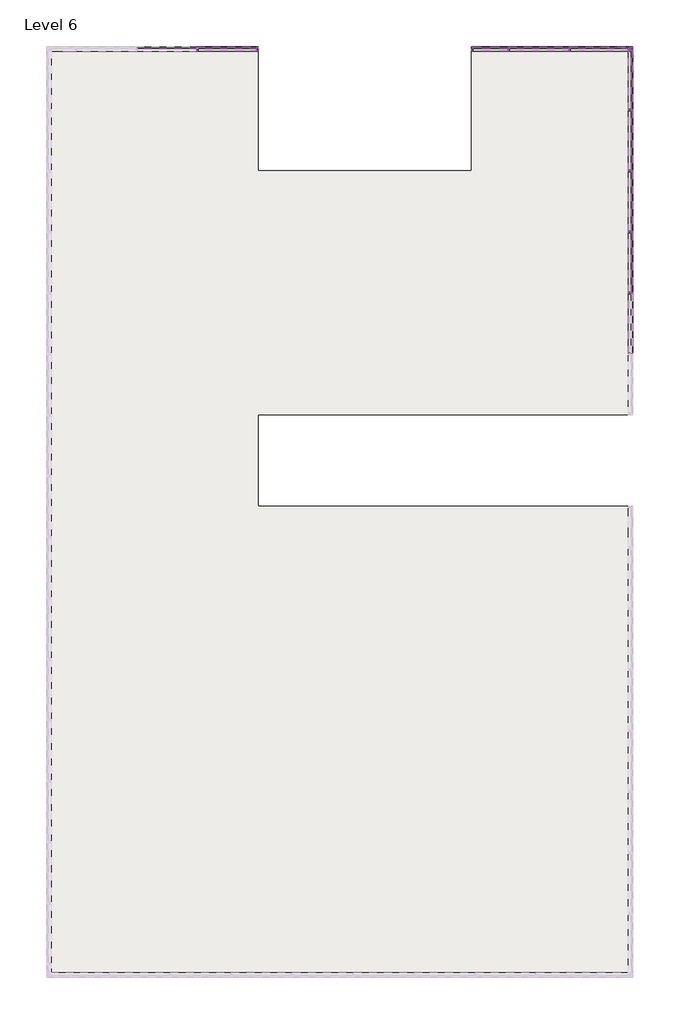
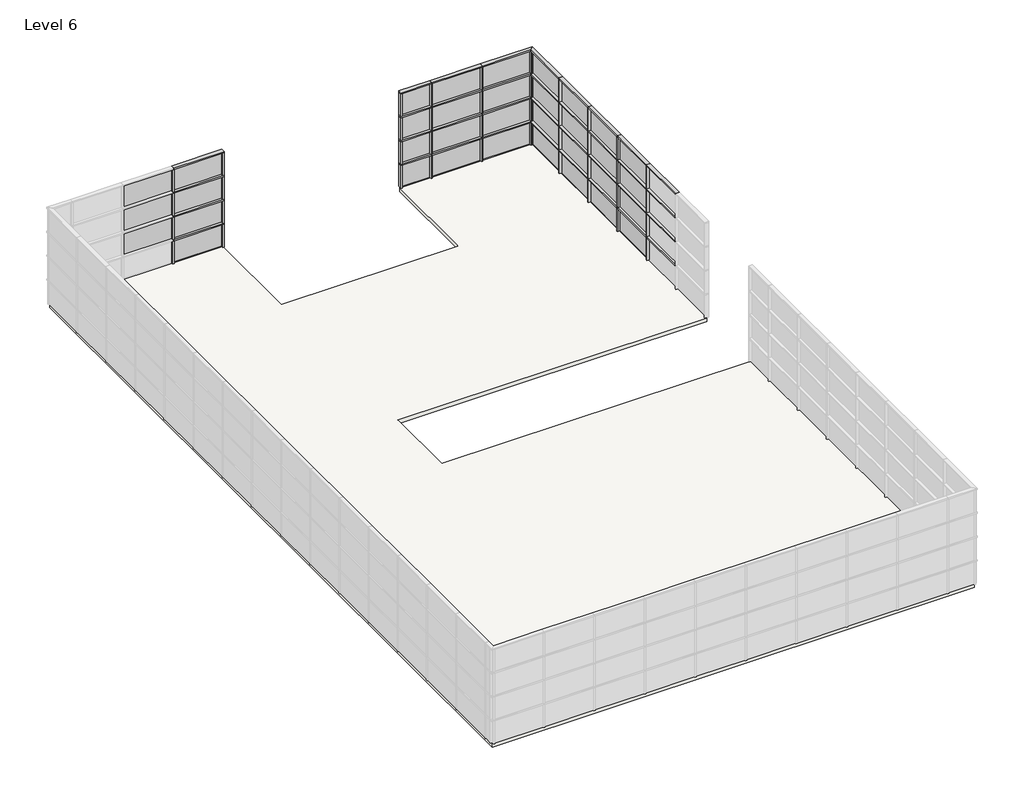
# One storey, part 5 of 5: 80 members, 35 plates, 1 slab.
"""IFC4 building model written with IfcOpenShell, lengths in millimetres."""

from ifc_helpers import new_model, si_unit, frame, origin, place, context, project, spatial, polyline, outline, extrude, transform, mapped, element, save
from components import rectangular_mullion_50_x_150mm_a053b0ca, rectangular_mullion_50_x_150mm_3a148f0f, rectangular_mullion_50_x_150mm_12a430f9, rectangular_mullion_50_x_150mm_11a594ce, rectangular_mullion_50_x_150mm_6b24f785, rectangular_mullion_50_x_150mm_947845bb, system_panel_glazed_751a585c, system_panel_glazed_08de6f5f, system_panel_glazed_892a108f

model = new_model("IFC4")

# Units and contexts
model_context = context("Model", 3, world=origin())
ifc_project = project(units=[si_unit("LENGTHUNIT", "METRE", prefix="MILLI")], contexts=[model_context])

# Site, building, storey
site = spatial("IfcSite", under=ifc_project)
building = spatial("IfcBuilding", under=site)
storey = spatial("IfcBuildingStorey", under=building, Name="Level 6", Elevation=20000.0)

# Members
placement = place(None, origin())
rectangular_mullion_50_x_150mm_shape = rectangular_mullion_50_x_150mm_a053b0ca(model_context)
element("IfcMember", 1, ObjectType="Rectangular Mullion : 50 x 150mm", at=placement, inside=storey, context=model_context, shape_type="MappedRepresentation", body=[
    mapped(rectangular_mullion_50_x_150mm_shape, transform((-721.580781, 8375.9839566, 20025.0), x_axis=(-1.0, 0.0, 0.0), y_axis=(0.0, 1.0, 0.0), z_axis=(0.0, 0.0, -0.9999999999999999))),
])
element("IfcMember", 2, ObjectType="Rectangular Mullion : 50 x 150mm", at=placement, inside=storey, context=model_context, shape_type="MappedRepresentation", body=[
    mapped(rectangular_mullion_50_x_150mm_shape, transform((-721.580781, 8375.9839566, 21025.0), x_axis=(-1.0, 0.0, 0.0), y_axis=(0.0, 1.0, 0.0), z_axis=(0.0, 0.0, -0.9999999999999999))),
])
element("IfcMember", 3, ObjectType="Rectangular Mullion : 50 x 150mm", at=placement, inside=storey, context=model_context, shape_type="MappedRepresentation", body=[
    mapped(rectangular_mullion_50_x_150mm_shape, transform((-721.580781, 8375.9839566, 22025.0), x_axis=(-1.0, 0.0, 0.0), y_axis=(0.0, 1.0, 0.0), z_axis=(0.0, 0.0, -0.9999999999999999))),
])
element("IfcMember", 4, ObjectType="Rectangular Mullion : 50 x 150mm", at=placement, inside=storey, context=model_context, shape_type="MappedRepresentation", body=[
    mapped(rectangular_mullion_50_x_150mm_shape, transform((-721.580781, 8375.9839566, 23025.0), x_axis=(-1.0, 0.0, 0.0), y_axis=(0.0, 1.0, 0.0), z_axis=(0.0, 0.0, -0.9999999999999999))),
])
element("IfcMember", 5, ObjectType="Rectangular Mullion : 50 x 150mm", at=placement, inside=storey, context=model_context, shape_type="MappedRepresentation", body=[
    mapped(rectangular_mullion_50_x_150mm_shape, transform((9503.2660975, 8375.9839566, 20025.0), x_axis=(-1.0, 0.0, 0.0), y_axis=(0.0, 1.0, 0.0), z_axis=(0.0, 0.0, -0.9999999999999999))),
])
element("IfcMember", 6, ObjectType="Rectangular Mullion : 50 x 150mm", at=placement, inside=storey, context=model_context, shape_type="MappedRepresentation", body=[
    mapped(rectangular_mullion_50_x_150mm_shape, transform((9503.2660975, 8375.9839566, 21025.0), x_axis=(-1.0, 0.0, 0.0), y_axis=(0.0, 1.0, 0.0), z_axis=(0.0, 0.0, -0.9999999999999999))),
])
element("IfcMember", 7, ObjectType="Rectangular Mullion : 50 x 150mm", at=placement, inside=storey, context=model_context, shape_type="MappedRepresentation", body=[
    mapped(rectangular_mullion_50_x_150mm_shape, transform((9503.2660975, 8375.9839566, 22025.0), x_axis=(-1.0, 0.0, 0.0), y_axis=(0.0, 1.0, 0.0), z_axis=(0.0, 0.0, -0.9999999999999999))),
])
element("IfcMember", 8, ObjectType="Rectangular Mullion : 50 x 150mm", at=placement, inside=storey, context=model_context, shape_type="MappedRepresentation", body=[
    mapped(rectangular_mullion_50_x_150mm_shape, transform((9503.2660975, 8375.9839566, 23025.0), x_axis=(-1.0, 0.0, 0.0), y_axis=(0.0, 1.0, 0.0), z_axis=(0.0, 0.0, -0.9999999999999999))),
])
element("IfcMember", 9, ObjectType="Rectangular Mullion : 50 x 150mm", at=placement, inside=storey, context=model_context, shape_type="MappedRepresentation", body=[
    mapped(rectangular_mullion_50_x_150mm_shape, transform((11503.2660975, 8375.9839566, 20025.0), x_axis=(-1.0, 0.0, 0.0), y_axis=(0.0, 1.0, 0.0), z_axis=(0.0, 0.0, -0.9999999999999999))),
])
element("IfcMember", 10, ObjectType="Rectangular Mullion : 50 x 150mm", at=placement, inside=storey, context=model_context, shape_type="MappedRepresentation", body=[
    mapped(rectangular_mullion_50_x_150mm_shape, transform((11503.2660975, 8375.9839566, 21025.0), x_axis=(-1.0, 0.0, 0.0), y_axis=(0.0, 1.0, 0.0), z_axis=(0.0, 0.0, -0.9999999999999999))),
])
element("IfcMember", 11, ObjectType="Rectangular Mullion : 50 x 150mm", at=placement, inside=storey, context=model_context, shape_type="MappedRepresentation", body=[
    mapped(rectangular_mullion_50_x_150mm_shape, transform((11503.2660975, 8375.9839566, 22025.0), x_axis=(-1.0, 0.0, 0.0), y_axis=(0.0, 1.0, 0.0), z_axis=(0.0, 0.0, -0.9999999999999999))),
])
element("IfcMember", 12, ObjectType="Rectangular Mullion : 50 x 150mm", at=placement, inside=storey, context=model_context, shape_type="MappedRepresentation", body=[
    mapped(rectangular_mullion_50_x_150mm_shape, transform((11503.2660975, 8375.9839566, 23025.0), x_axis=(-1.0, 0.0, 0.0), y_axis=(0.0, 1.0, 0.0), z_axis=(0.0, 0.0, -0.9999999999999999))),
])
element("IfcMember", 13, ObjectType="Rectangular Mullion : 50 x 150mm", at=placement, inside=storey, context=model_context, shape_type="MappedRepresentation", body=[
    mapped(rectangular_mullion_50_x_150mm_shape, transform((13503.2660975, 375.9839566, 20025.0), x_axis=(0.0, 1.0, 0.0), y_axis=(1.0, 0.0, 0.0), z_axis=(0.0, 0.0, -0.9999999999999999))),
])
element("IfcMember", 14, ObjectType="Rectangular Mullion : 50 x 150mm", at=placement, inside=storey, context=model_context, shape_type="MappedRepresentation", body=[
    mapped(rectangular_mullion_50_x_150mm_shape, transform((13503.2660975, 375.9839566, 21025.0), x_axis=(0.0, 1.0, 0.0), y_axis=(1.0, 0.0, 0.0), z_axis=(0.0, 0.0, -0.9999999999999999))),
])
element("IfcMember", 15, ObjectType="Rectangular Mullion : 50 x 150mm", at=placement, inside=storey, context=model_context, shape_type="MappedRepresentation", body=[
    mapped(rectangular_mullion_50_x_150mm_shape, transform((13503.2660975, 375.9839566, 22025.0), x_axis=(0.0, 1.0, 0.0), y_axis=(1.0, 0.0, 0.0), z_axis=(0.0, 0.0, -0.9999999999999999))),
])
element("IfcMember", 16, ObjectType="Rectangular Mullion : 50 x 150mm", at=placement, inside=storey, context=model_context, shape_type="MappedRepresentation", body=[
    mapped(rectangular_mullion_50_x_150mm_shape, transform((13503.2660975, 375.9839566, 23025.0), x_axis=(0.0, 1.0, 0.0), y_axis=(1.0, 0.0, 0.0), z_axis=(0.0, 0.0, -0.9999999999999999))),
])
element("IfcMember", 17, ObjectType="Rectangular Mullion : 50 x 150mm", at=placement, inside=storey, context=model_context, shape_type="MappedRepresentation", body=[
    mapped(rectangular_mullion_50_x_150mm_shape, transform((13503.2660975, 2375.9839566, 20025.0), x_axis=(0.0, 1.0, 0.0), y_axis=(1.0, 0.0, 0.0), z_axis=(0.0, 0.0, -0.9999999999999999))),
])
element("IfcMember", 18, ObjectType="Rectangular Mullion : 50 x 150mm", at=placement, inside=storey, context=model_context, shape_type="MappedRepresentation", body=[
    mapped(rectangular_mullion_50_x_150mm_shape, transform((13503.2660975, 2375.9839566, 21025.0), x_axis=(0.0, 1.0, 0.0), y_axis=(1.0, 0.0, 0.0), z_axis=(0.0, 0.0, -0.9999999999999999))),
])
element("IfcMember", 19, ObjectType="Rectangular Mullion : 50 x 150mm", at=placement, inside=storey, context=model_context, shape_type="MappedRepresentation", body=[
    mapped(rectangular_mullion_50_x_150mm_shape, transform((13503.2660975, 2375.9839566, 22025.0), x_axis=(0.0, 1.0, 0.0), y_axis=(1.0, 0.0, 0.0), z_axis=(0.0, 0.0, -0.9999999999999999))),
])
element("IfcMember", 20, ObjectType="Rectangular Mullion : 50 x 150mm", at=placement, inside=storey, context=model_context, shape_type="MappedRepresentation", body=[
    mapped(rectangular_mullion_50_x_150mm_shape, transform((13503.2660975, 2375.9839566, 23025.0), x_axis=(0.0, 1.0, 0.0), y_axis=(1.0, 0.0, 0.0), z_axis=(0.0, 0.0, -0.9999999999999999))),
])
element("IfcMember", 21, ObjectType="Rectangular Mullion : 50 x 150mm", at=placement, inside=storey, context=model_context, shape_type="MappedRepresentation", body=[
    mapped(rectangular_mullion_50_x_150mm_shape, transform((13503.2660975, 4375.9839566, 20025.0), x_axis=(0.0, 1.0, 0.0), y_axis=(1.0, 0.0, 0.0), z_axis=(0.0, 0.0, -0.9999999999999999))),
])
element("IfcMember", 22, ObjectType="Rectangular Mullion : 50 x 150mm", at=placement, inside=storey, context=model_context, shape_type="MappedRepresentation", body=[
    mapped(rectangular_mullion_50_x_150mm_shape, transform((13503.2660975, 4375.9839566, 21025.0), x_axis=(0.0, 1.0, 0.0), y_axis=(1.0, 0.0, 0.0), z_axis=(0.0, 0.0, -0.9999999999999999))),
])
element("IfcMember", 23, ObjectType="Rectangular Mullion : 50 x 150mm", at=placement, inside=storey, context=model_context, shape_type="MappedRepresentation", body=[
    mapped(rectangular_mullion_50_x_150mm_shape, transform((13503.2660975, 4375.9839566, 22025.0), x_axis=(0.0, 1.0, 0.0), y_axis=(1.0, 0.0, 0.0), z_axis=(0.0, 0.0, -0.9999999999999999))),
])
element("IfcMember", 24, ObjectType="Rectangular Mullion : 50 x 150mm", at=placement, inside=storey, context=model_context, shape_type="MappedRepresentation", body=[
    mapped(rectangular_mullion_50_x_150mm_shape, transform((13503.2660975, 4375.9839566, 23025.0), x_axis=(0.0, 1.0, 0.0), y_axis=(1.0, 0.0, 0.0), z_axis=(0.0, 0.0, -0.9999999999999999))),
])
element("IfcMember", 25, ObjectType="Rectangular Mullion : 50 x 150mm", at=placement, inside=storey, context=model_context, shape_type="MappedRepresentation", body=[
    mapped(rectangular_mullion_50_x_150mm_shape, transform((13503.2660975, 6375.9839566, 20025.0), x_axis=(0.0, 1.0, 0.0), y_axis=(1.0, 0.0, 0.0), z_axis=(0.0, 0.0, -0.9999999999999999))),
])
element("IfcMember", 26, ObjectType="Rectangular Mullion : 50 x 150mm", at=placement, inside=storey, context=model_context, shape_type="MappedRepresentation", body=[
    mapped(rectangular_mullion_50_x_150mm_shape, transform((13503.2660975, 6375.9839566, 21025.0), x_axis=(0.0, 1.0, 0.0), y_axis=(1.0, 0.0, 0.0), z_axis=(0.0, 0.0, -0.9999999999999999))),
])
element("IfcMember", 27, ObjectType="Rectangular Mullion : 50 x 150mm", at=placement, inside=storey, context=model_context, shape_type="MappedRepresentation", body=[
    mapped(rectangular_mullion_50_x_150mm_shape, transform((13503.2660975, 6375.9839566, 22025.0), x_axis=(0.0, 1.0, 0.0), y_axis=(1.0, 0.0, 0.0), z_axis=(0.0, 0.0, -0.9999999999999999))),
])
element("IfcMember", 28, ObjectType="Rectangular Mullion : 50 x 150mm", at=placement, inside=storey, context=model_context, shape_type="MappedRepresentation", body=[
    mapped(rectangular_mullion_50_x_150mm_shape, transform((13503.2660975, 6375.9839566, 23025.0), x_axis=(0.0, 1.0, 0.0), y_axis=(1.0, 0.0, 0.0), z_axis=(0.0, 0.0, -0.9999999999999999))),
])
rectangular_mullion_50_x_150mm_2_shape = rectangular_mullion_50_x_150mm_3a148f0f(model_context)
element("IfcMember", 29, ObjectType="Rectangular Mullion : 50 x 150mm", at=placement, inside=storey, context=model_context, shape_type="MappedRepresentation", body=[
    mapped(rectangular_mullion_50_x_150mm_2_shape, transform((-721.580781, 8375.9839566, 21000.0), x_axis=(0.0, 0.0, 1.0), y_axis=(0.0, 1.0, 0.0), z_axis=(-1.0, 0.0, 0.0))),
])
element("IfcMember", 30, ObjectType="Rectangular Mullion : 50 x 150mm", at=placement, inside=storey, context=model_context, shape_type="MappedRepresentation", body=[
    mapped(rectangular_mullion_50_x_150mm_2_shape, transform((-721.580781, 8375.9839566, 22000.0), x_axis=(0.0, 0.0, 1.0), y_axis=(0.0, 1.0, 0.0), z_axis=(-1.0, 0.0, 0.0))),
])
element("IfcMember", 31, ObjectType="Rectangular Mullion : 50 x 150mm", at=placement, inside=storey, context=model_context, shape_type="MappedRepresentation", body=[
    mapped(rectangular_mullion_50_x_150mm_2_shape, transform((-721.580781, 8375.9839566, 23000.0), x_axis=(0.0, 0.0, 1.0), y_axis=(0.0, 1.0, 0.0), z_axis=(-1.0, 0.0, 0.0))),
])
element("IfcMember", 32, ObjectType="Rectangular Mullion : 50 x 150mm", at=placement, inside=storey, context=model_context, shape_type="MappedRepresentation", body=[
    mapped(rectangular_mullion_50_x_150mm_2_shape, transform((-721.580781, 8375.9839566, 24000.0), x_axis=(0.0, 0.0, 1.0), y_axis=(0.0, 1.0, 0.0), z_axis=(-1.0, 0.0, 0.0))),
])
element("IfcMember", 33, ObjectType="Rectangular Mullion : 50 x 150mm", at=placement, inside=storey, context=model_context, shape_type="MappedRepresentation", body=[
    mapped(rectangular_mullion_50_x_150mm_2_shape, transform((9503.2660975, 8375.9839566, 21000.0), x_axis=(0.0, 0.0, 1.0), y_axis=(0.0, 1.0, 0.0), z_axis=(-1.0, 0.0, 0.0))),
])
element("IfcMember", 34, ObjectType="Rectangular Mullion : 50 x 150mm", at=placement, inside=storey, context=model_context, shape_type="MappedRepresentation", body=[
    mapped(rectangular_mullion_50_x_150mm_2_shape, transform((9503.2660975, 8375.9839566, 22000.0), x_axis=(0.0, 0.0, 1.0), y_axis=(0.0, 1.0, 0.0), z_axis=(-1.0, 0.0, 0.0))),
])
element("IfcMember", 35, ObjectType="Rectangular Mullion : 50 x 150mm", at=placement, inside=storey, context=model_context, shape_type="MappedRepresentation", body=[
    mapped(rectangular_mullion_50_x_150mm_2_shape, transform((9503.2660975, 8375.9839566, 23000.0), x_axis=(0.0, 0.0, 1.0), y_axis=(0.0, 1.0, 0.0), z_axis=(-1.0, 0.0, 0.0))),
])
element("IfcMember", 36, ObjectType="Rectangular Mullion : 50 x 150mm", at=placement, inside=storey, context=model_context, shape_type="MappedRepresentation", body=[
    mapped(rectangular_mullion_50_x_150mm_2_shape, transform((9503.2660975, 8375.9839566, 24000.0), x_axis=(0.0, 0.0, 1.0), y_axis=(0.0, 1.0, 0.0), z_axis=(-1.0, 0.0, 0.0))),
])
element("IfcMember", 37, ObjectType="Rectangular Mullion : 50 x 150mm", at=placement, inside=storey, context=model_context, shape_type="MappedRepresentation", body=[
    mapped(rectangular_mullion_50_x_150mm_2_shape, transform((13503.2660975, 375.9839566, 21000.0), x_axis=(0.0, 0.0, 1.0), y_axis=(1.0, 0.0, 0.0), z_axis=(0.0, 1.0, 0.0))),
])
element("IfcMember", 38, ObjectType="Rectangular Mullion : 50 x 150mm", at=placement, inside=storey, context=model_context, shape_type="MappedRepresentation", body=[
    mapped(rectangular_mullion_50_x_150mm_2_shape, transform((13503.2660975, 2375.9839566, 21000.0), x_axis=(0.0, 0.0, 1.0), y_axis=(1.0, 0.0, 0.0), z_axis=(0.0, 1.0, 0.0))),
])
element("IfcMember", 39, ObjectType="Rectangular Mullion : 50 x 150mm", at=placement, inside=storey, context=model_context, shape_type="MappedRepresentation", body=[
    mapped(rectangular_mullion_50_x_150mm_2_shape, transform((13503.2660975, 4375.9839566, 21000.0), x_axis=(0.0, 0.0, 1.0), y_axis=(1.0, 0.0, 0.0), z_axis=(0.0, 1.0, 0.0))),
])
element("IfcMember", 40, ObjectType="Rectangular Mullion : 50 x 150mm", at=placement, inside=storey, context=model_context, shape_type="MappedRepresentation", body=[
    mapped(rectangular_mullion_50_x_150mm_2_shape, transform((13503.2660975, 6375.9839566, 21000.0), x_axis=(0.0, 0.0, 1.0), y_axis=(1.0, 0.0, 0.0), z_axis=(0.0, 1.0, 0.0))),
])
element("IfcMember", 41, ObjectType="Rectangular Mullion : 50 x 150mm", at=placement, inside=storey, context=model_context, shape_type="MappedRepresentation", body=[
    mapped(rectangular_mullion_50_x_150mm_2_shape, transform((13503.2660975, 375.9839566, 22000.0), x_axis=(0.0, 0.0, 1.0), y_axis=(1.0, 0.0, 0.0), z_axis=(0.0, 1.0, 0.0))),
])
element("IfcMember", 42, ObjectType="Rectangular Mullion : 50 x 150mm", at=placement, inside=storey, context=model_context, shape_type="MappedRepresentation", body=[
    mapped(rectangular_mullion_50_x_150mm_2_shape, transform((13503.2660975, 2375.9839566, 22000.0), x_axis=(0.0, 0.0, 1.0), y_axis=(1.0, 0.0, 0.0), z_axis=(0.0, 1.0, 0.0))),
])
element("IfcMember", 43, ObjectType="Rectangular Mullion : 50 x 150mm", at=placement, inside=storey, context=model_context, shape_type="MappedRepresentation", body=[
    mapped(rectangular_mullion_50_x_150mm_2_shape, transform((13503.2660975, 4375.9839566, 22000.0), x_axis=(0.0, 0.0, 1.0), y_axis=(1.0, 0.0, 0.0), z_axis=(0.0, 1.0, 0.0))),
])
element("IfcMember", 44, ObjectType="Rectangular Mullion : 50 x 150mm", at=placement, inside=storey, context=model_context, shape_type="MappedRepresentation", body=[
    mapped(rectangular_mullion_50_x_150mm_2_shape, transform((13503.2660975, 6375.9839566, 22000.0), x_axis=(0.0, 0.0, 1.0), y_axis=(1.0, 0.0, 0.0), z_axis=(0.0, 1.0, 0.0))),
])
element("IfcMember", 45, ObjectType="Rectangular Mullion : 50 x 150mm", at=placement, inside=storey, context=model_context, shape_type="MappedRepresentation", body=[
    mapped(rectangular_mullion_50_x_150mm_2_shape, transform((13503.2660975, 375.9839566, 23000.0), x_axis=(0.0, 0.0, 1.0), y_axis=(1.0, 0.0, 0.0), z_axis=(0.0, 0.9999999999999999, 0.0))),
])
element("IfcMember", 46, ObjectType="Rectangular Mullion : 50 x 150mm", at=placement, inside=storey, context=model_context, shape_type="MappedRepresentation", body=[
    mapped(rectangular_mullion_50_x_150mm_2_shape, transform((13503.2660975, 2375.9839566, 23000.0), x_axis=(0.0, 0.0, 1.0), y_axis=(1.0, 0.0, 0.0), z_axis=(0.0, 1.0, 0.0))),
])
element("IfcMember", 47, ObjectType="Rectangular Mullion : 50 x 150mm", at=placement, inside=storey, context=model_context, shape_type="MappedRepresentation", body=[
    mapped(rectangular_mullion_50_x_150mm_2_shape, transform((13503.2660975, 4375.9839566, 23000.0), x_axis=(0.0, 0.0, 1.0), y_axis=(1.0, 0.0, 0.0), z_axis=(0.0, 1.0, 0.0))),
])
element("IfcMember", 48, ObjectType="Rectangular Mullion : 50 x 150mm", at=placement, inside=storey, context=model_context, shape_type="MappedRepresentation", body=[
    mapped(rectangular_mullion_50_x_150mm_2_shape, transform((13503.2660975, 6375.9839566, 23000.0), x_axis=(0.0, 0.0, 1.0), y_axis=(1.0, 0.0, 0.0), z_axis=(0.0, 1.0, 0.0))),
])
element("IfcMember", 49, ObjectType="Rectangular Mullion : 50 x 150mm", at=placement, inside=storey, context=model_context, shape_type="MappedRepresentation", body=[
    mapped(rectangular_mullion_50_x_150mm_2_shape, transform((13503.2660975, 375.9839566, 24000.0), x_axis=(0.0, 0.0, 1.0), y_axis=(1.0, 0.0, 0.0), z_axis=(0.0, 0.9999999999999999, 0.0))),
])
element("IfcMember", 50, ObjectType="Rectangular Mullion : 50 x 150mm", at=placement, inside=storey, context=model_context, shape_type="MappedRepresentation", body=[
    mapped(rectangular_mullion_50_x_150mm_2_shape, transform((13503.2660975, 2375.9839566, 24000.0), x_axis=(0.0, 0.0, 1.0), y_axis=(1.0, 0.0, 0.0), z_axis=(0.0, 1.0, 0.0))),
])
element("IfcMember", 51, ObjectType="Rectangular Mullion : 50 x 150mm", at=placement, inside=storey, context=model_context, shape_type="MappedRepresentation", body=[
    mapped(rectangular_mullion_50_x_150mm_2_shape, transform((13503.2660975, 4375.9839566, 24000.0), x_axis=(0.0, 0.0, 1.0), y_axis=(1.0, 0.0, 0.0), z_axis=(0.0, 1.0, 0.0))),
])
element("IfcMember", 52, ObjectType="Rectangular Mullion : 50 x 150mm", at=placement, inside=storey, context=model_context, shape_type="MappedRepresentation", body=[
    mapped(rectangular_mullion_50_x_150mm_2_shape, transform((13503.2660975, 6375.9839566, 24000.0), x_axis=(0.0, 0.0, 1.0), y_axis=(1.0, 0.0, 0.0), z_axis=(0.0, 1.0, 0.0))),
])
rectangular_mullion_50_x_150mm_3_shape = rectangular_mullion_50_x_150mm_12a430f9(model_context)
element("IfcMember", 53, ObjectType="Rectangular Mullion : 50 x 150mm", at=placement, inside=storey, context=model_context, shape_type="MappedRepresentation", body=[
    mapped(rectangular_mullion_50_x_150mm_3_shape, transform((1278.419219, 8375.9839566, 20975.0), x_axis=(1.0, 0.0, 0.0), y_axis=(0.0, 1.0, 0.0), z_axis=(0.0, 0.0, 0.9999999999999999))),
])
element("IfcMember", 54, ObjectType="Rectangular Mullion : 50 x 150mm", at=placement, inside=storey, context=model_context, shape_type="MappedRepresentation", body=[
    mapped(rectangular_mullion_50_x_150mm_3_shape, transform((1278.419219, 8375.9839566, 21975.0), x_axis=(1.0, 0.0, 0.0), y_axis=(0.0, 1.0, 0.0), z_axis=(0.0, 0.0, 0.9999999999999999))),
])
element("IfcMember", 55, ObjectType="Rectangular Mullion : 50 x 150mm", at=placement, inside=storey, context=model_context, shape_type="MappedRepresentation", body=[
    mapped(rectangular_mullion_50_x_150mm_3_shape, transform((1278.419219, 8375.9839566, 22975.0), x_axis=(1.0, 0.0, 0.0), y_axis=(0.0, 1.0, 0.0), z_axis=(0.0, 0.0, 0.9999999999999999))),
])
element("IfcMember", 56, ObjectType="Rectangular Mullion : 50 x 150mm", at=placement, inside=storey, context=model_context, shape_type="MappedRepresentation", body=[
    mapped(rectangular_mullion_50_x_150mm_3_shape, transform((1278.419219, 8375.9839566, 23975.0), x_axis=(1.0, 0.0, 0.0), y_axis=(0.0, 1.0, 0.0), z_axis=(0.0, 0.0, 0.9999999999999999))),
])
element("IfcMember", 57, ObjectType="Rectangular Mullion : 50 x 150mm", at=placement, inside=storey, context=model_context, shape_type="MappedRepresentation", body=[
    mapped(rectangular_mullion_50_x_150mm_3_shape, transform((13503.2660975, 8375.9839566, 20975.0), x_axis=(1.0, 0.0, 0.0), y_axis=(0.0, 1.0, 0.0), z_axis=(0.0, 0.0, 0.9999999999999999))),
])
element("IfcMember", 58, ObjectType="Rectangular Mullion : 50 x 150mm", at=placement, inside=storey, context=model_context, shape_type="MappedRepresentation", body=[
    mapped(rectangular_mullion_50_x_150mm_3_shape, transform((13503.2660975, 8375.9839566, 21975.0), x_axis=(1.0, 0.0, 0.0), y_axis=(0.0, 1.0, 0.0), z_axis=(0.0, 0.0, 0.9999999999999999))),
])
element("IfcMember", 59, ObjectType="Rectangular Mullion : 50 x 150mm", at=placement, inside=storey, context=model_context, shape_type="MappedRepresentation", body=[
    mapped(rectangular_mullion_50_x_150mm_3_shape, transform((13503.2660975, 8375.9839566, 22975.0), x_axis=(1.0, 0.0, 0.0), y_axis=(0.0, 1.0, 0.0), z_axis=(0.0, 0.0, 0.9999999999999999))),
])
element("IfcMember", 60, ObjectType="Rectangular Mullion : 50 x 150mm", at=placement, inside=storey, context=model_context, shape_type="MappedRepresentation", body=[
    mapped(rectangular_mullion_50_x_150mm_3_shape, transform((13503.2660975, 8375.9839566, 23975.0), x_axis=(1.0, 0.0, 0.0), y_axis=(0.0, 1.0, 0.0), z_axis=(0.0, 0.0, 0.9999999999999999))),
])
element("IfcMember", 61, ObjectType="Rectangular Mullion : 50 x 150mm", at=placement, inside=storey, context=model_context, shape_type="MappedRepresentation", body=[
    mapped(rectangular_mullion_50_x_150mm_3_shape, transform((8278.419219, 8375.9839566, 20025.0), x_axis=(-1.0, 0.0, 0.0), y_axis=(0.0, 1.0, 0.0), z_axis=(0.0, 0.0, -0.9999999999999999))),
])
element("IfcMember", 62, ObjectType="Rectangular Mullion : 50 x 150mm", at=placement, inside=storey, context=model_context, shape_type="MappedRepresentation", body=[
    mapped(rectangular_mullion_50_x_150mm_3_shape, transform((8278.419219, 8375.9839566, 21025.0), x_axis=(-1.0, 0.0, 0.0), y_axis=(0.0, 1.0, 0.0), z_axis=(0.0, 0.0, -0.9999999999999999))),
])
element("IfcMember", 63, ObjectType="Rectangular Mullion : 50 x 150mm", at=placement, inside=storey, context=model_context, shape_type="MappedRepresentation", body=[
    mapped(rectangular_mullion_50_x_150mm_3_shape, transform((8278.419219, 8375.9839566, 22025.0), x_axis=(-1.0, 0.0, 0.0), y_axis=(0.0, 1.0, 0.0), z_axis=(0.0, 0.0, -0.9999999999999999))),
])
element("IfcMember", 64, ObjectType="Rectangular Mullion : 50 x 150mm", at=placement, inside=storey, context=model_context, shape_type="MappedRepresentation", body=[
    mapped(rectangular_mullion_50_x_150mm_3_shape, transform((8278.419219, 8375.9839566, 23025.0), x_axis=(-1.0, 0.0, 0.0), y_axis=(0.0, 1.0, 0.0), z_axis=(0.0, 0.0, -0.9999999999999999))),
])
element("IfcMember", 65, ObjectType="Rectangular Mullion : 50 x 150mm", at=placement, inside=storey, context=model_context, shape_type="MappedRepresentation", body=[
    mapped(rectangular_mullion_50_x_150mm_3_shape, transform((13503.2660975, 8375.9839566, 20025.0), x_axis=(0.0, 1.0, 0.0), y_axis=(1.0, 0.0, 0.0), z_axis=(0.0, 0.0, -0.9999999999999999))),
])
element("IfcMember", 66, ObjectType="Rectangular Mullion : 50 x 150mm", at=placement, inside=storey, context=model_context, shape_type="MappedRepresentation", body=[
    mapped(rectangular_mullion_50_x_150mm_3_shape, transform((13503.2660975, 8375.9839566, 21025.0), x_axis=(0.0, 1.0, 0.0), y_axis=(1.0, 0.0, 0.0), z_axis=(0.0, 0.0, -0.9999999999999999))),
])
element("IfcMember", 67, ObjectType="Rectangular Mullion : 50 x 150mm", at=placement, inside=storey, context=model_context, shape_type="MappedRepresentation", body=[
    mapped(rectangular_mullion_50_x_150mm_3_shape, transform((13503.2660975, 8375.9839566, 22025.0), x_axis=(0.0, 1.0, 0.0), y_axis=(1.0, 0.0, 0.0), z_axis=(0.0, 0.0, -0.9999999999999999))),
])
element("IfcMember", 68, ObjectType="Rectangular Mullion : 50 x 150mm", at=placement, inside=storey, context=model_context, shape_type="MappedRepresentation", body=[
    mapped(rectangular_mullion_50_x_150mm_3_shape, transform((13503.2660975, 8375.9839566, 23025.0), x_axis=(0.0, 1.0, 0.0), y_axis=(1.0, 0.0, 0.0), z_axis=(0.0, 0.0, -0.9999999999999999))),
])
rectangular_mullion_50_x_150mm_4_shape = rectangular_mullion_50_x_150mm_11a594ce(model_context)
element("IfcMember", 69, ObjectType="Rectangular Mullion : 50 x 150mm", at=placement, inside=storey, context=model_context, shape_type="MappedRepresentation", body=[
    mapped(rectangular_mullion_50_x_150mm_4_shape, transform((8278.419219, 8375.9839566, 21000.0), x_axis=(0.0, 0.0, 1.0), y_axis=(0.0, 1.0, 0.0), z_axis=(-1.0, 0.0, 0.0))),
])
element("IfcMember", 70, ObjectType="Rectangular Mullion : 50 x 150mm", at=placement, inside=storey, context=model_context, shape_type="MappedRepresentation", body=[
    mapped(rectangular_mullion_50_x_150mm_4_shape, transform((8278.419219, 8375.9839566, 22000.0), x_axis=(0.0, 0.0, 1.0), y_axis=(0.0, 1.0, 0.0), z_axis=(-1.0, 0.0, 0.0))),
])
element("IfcMember", 71, ObjectType="Rectangular Mullion : 50 x 150mm", at=placement, inside=storey, context=model_context, shape_type="MappedRepresentation", body=[
    mapped(rectangular_mullion_50_x_150mm_4_shape, transform((8278.419219, 8375.9839566, 23000.0), x_axis=(0.0, 0.0, 1.0), y_axis=(0.0, 1.0, 0.0), z_axis=(-1.0, 0.0, 0.0))),
])
element("IfcMember", 72, ObjectType="Rectangular Mullion : 50 x 150mm", at=placement, inside=storey, context=model_context, shape_type="MappedRepresentation", body=[
    mapped(rectangular_mullion_50_x_150mm_4_shape, transform((8278.419219, 8375.9839566, 24000.0), x_axis=(0.0, 0.0, 1.0), y_axis=(0.0, 1.0, 0.0), z_axis=(-1.0, 0.0, 0.0))),
])
rectangular_mullion_50_x_150mm_5_shape = rectangular_mullion_50_x_150mm_6b24f785(model_context)
element("IfcMember", 73, ObjectType="Rectangular Mullion : 50 x 150mm", at=placement, inside=storey, context=model_context, shape_type="MappedRepresentation", body=[
    mapped(rectangular_mullion_50_x_150mm_5_shape, transform((13503.2660975, 8375.9839566, 21000.0), x_axis=(0.0, 0.0, 1.0), y_axis=(1.0, 0.0, 0.0), z_axis=(0.0, 0.9999999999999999, 0.0))),
])
element("IfcMember", 74, ObjectType="Rectangular Mullion : 50 x 150mm", at=placement, inside=storey, context=model_context, shape_type="MappedRepresentation", body=[
    mapped(rectangular_mullion_50_x_150mm_5_shape, transform((13503.2660975, 8375.9839566, 22000.0), x_axis=(0.0, 0.0, 1.0), y_axis=(1.0, 0.0, 0.0), z_axis=(0.0, 0.9999999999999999, 0.0))),
])
element("IfcMember", 75, ObjectType="Rectangular Mullion : 50 x 150mm", at=placement, inside=storey, context=model_context, shape_type="MappedRepresentation", body=[
    mapped(rectangular_mullion_50_x_150mm_5_shape, transform((13503.2660975, 8375.9839566, 23000.0), x_axis=(0.0, 0.0, 1.0), y_axis=(1.0, 0.0, 0.0), z_axis=(0.0, 0.9999999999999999, 0.0))),
])
element("IfcMember", 76, ObjectType="Rectangular Mullion : 50 x 150mm", at=placement, inside=storey, context=model_context, shape_type="MappedRepresentation", body=[
    mapped(rectangular_mullion_50_x_150mm_5_shape, transform((13503.2660975, 8375.9839566, 24000.0), x_axis=(0.0, 0.0, 1.0), y_axis=(1.0, 0.0, 0.0), z_axis=(0.0, 0.9999999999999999, 0.0))),
])
rectangular_mullion_50_x_150mm_6_shape = rectangular_mullion_50_x_150mm_947845bb(model_context)
element("IfcMember", 77, ObjectType="Rectangular Mullion : 50 x 150mm", at=placement, inside=storey, context=model_context, shape_type="MappedRepresentation", body=[
    mapped(rectangular_mullion_50_x_150mm_6_shape, transform((11503.2660975, 8375.9839566, 21000.0), x_axis=(0.0, 0.0, 1.0), y_axis=(0.0, 1.0, 0.0), z_axis=(-1.0, 0.0, 0.0))),
])
element("IfcMember", 78, ObjectType="Rectangular Mullion : 50 x 150mm", at=placement, inside=storey, context=model_context, shape_type="MappedRepresentation", body=[
    mapped(rectangular_mullion_50_x_150mm_6_shape, transform((11503.2660975, 8375.9839566, 22000.0), x_axis=(0.0, 0.0, 1.0), y_axis=(0.0, 1.0, 0.0), z_axis=(-1.0, 0.0, 0.0))),
])
element("IfcMember", 79, ObjectType="Rectangular Mullion : 50 x 150mm", at=placement, inside=storey, context=model_context, shape_type="MappedRepresentation", body=[
    mapped(rectangular_mullion_50_x_150mm_6_shape, transform((11503.2660975, 8375.9839566, 23000.0), x_axis=(0.0, 0.0, 1.0), y_axis=(0.0, 1.0, 0.0), z_axis=(-1.0, 0.0, 0.0))),
])
element("IfcMember", 80, ObjectType="Rectangular Mullion : 50 x 150mm", at=placement, inside=storey, context=model_context, shape_type="MappedRepresentation", body=[
    mapped(rectangular_mullion_50_x_150mm_6_shape, transform((11503.2660975, 8375.9839566, 24000.0), x_axis=(0.0, 0.0, 1.0), y_axis=(0.0, 1.0, 0.0), z_axis=(-1.0, 0.0, 0.0))),
])

# Plates
system_panel_glazed_shape = system_panel_glazed_751a585c(model_context)
element("IfcPlate", 81, ObjectType="System Panel : Glazed", at=placement, inside=storey, context=model_context, shape_type="MappedRepresentation", body=[
    mapped(system_panel_glazed_shape, transform((13503.2660975, 6400.9839566, 20500.0), x_axis=(0.0, 0.0, 1.0), y_axis=(1.0, 0.0, 0.0), z_axis=(0.0, 1.0, 0.0))),
])
element("IfcPlate", 82, ObjectType="System Panel : Glazed", at=placement, inside=storey, context=model_context, shape_type="MappedRepresentation", body=[
    mapped(system_panel_glazed_shape, transform((13503.2660975, 6400.9839566, 21500.0), x_axis=(0.0, 0.0, 1.0), y_axis=(1.0, 0.0, 0.0), z_axis=(0.0, 1.0, 0.0))),
])
element("IfcPlate", 83, ObjectType="System Panel : Glazed", at=placement, inside=storey, context=model_context, shape_type="MappedRepresentation", body=[
    mapped(system_panel_glazed_shape, transform((13453.2660975, 8375.9839566, 20500.0), x_axis=(0.0, 0.0, 1.0), y_axis=(0.0, 1.0, 0.0), z_axis=(-1.0, 0.0, 0.0))),
])
element("IfcPlate", 84, ObjectType="System Panel : Glazed", at=placement, inside=storey, context=model_context, shape_type="MappedRepresentation", body=[
    mapped(system_panel_glazed_shape, transform((13453.2660975, 8375.9839566, 21500.0), x_axis=(0.0, 0.0, 1.0), y_axis=(0.0, 1.0, 0.0), z_axis=(-1.0, 0.0, 0.0))),
])
element("IfcPlate", 85, ObjectType="System Panel : Glazed", at=placement, inside=storey, context=model_context, shape_type="MappedRepresentation", body=[
    mapped(system_panel_glazed_shape, transform((1228.419219, 8375.9839566, 20500.0), x_axis=(0.0, 0.0, 1.0), y_axis=(0.0, 1.0, 0.0), z_axis=(-1.0, 0.0, 0.0))),
])
element("IfcPlate", 86, ObjectType="System Panel : Glazed", at=placement, inside=storey, context=model_context, shape_type="MappedRepresentation", body=[
    mapped(system_panel_glazed_shape, transform((1228.419219, 8375.9839566, 21500.0), x_axis=(0.0, 0.0, 1.0), y_axis=(0.0, 1.0, 0.0), z_axis=(-1.0, 0.0, 0.0))),
])
element("IfcPlate", 87, ObjectType="System Panel : Glazed", at=placement, inside=storey, context=model_context, shape_type="MappedRepresentation", body=[
    mapped(system_panel_glazed_shape, transform((13503.2660975, 6400.9839566, 22500.0), x_axis=(0.0, 0.0, 1.0), y_axis=(1.0, 0.0, 0.0), z_axis=(0.0, 1.0, 0.0))),
])
element("IfcPlate", 88, ObjectType="System Panel : Glazed", at=placement, inside=storey, context=model_context, shape_type="MappedRepresentation", body=[
    mapped(system_panel_glazed_shape, transform((13503.2660975, 6400.9839566, 23500.0), x_axis=(0.0, 0.0, 1.0), y_axis=(1.0, 0.0, 0.0), z_axis=(0.0, 1.0, 0.0))),
])
element("IfcPlate", 89, ObjectType="System Panel : Glazed", at=placement, inside=storey, context=model_context, shape_type="MappedRepresentation", body=[
    mapped(system_panel_glazed_shape, transform((13453.2660975, 8375.9839566, 22500.0), x_axis=(0.0, 0.0, 1.0), y_axis=(0.0, 1.0, 0.0), z_axis=(-1.0, 0.0, 0.0))),
])
element("IfcPlate", 90, ObjectType="System Panel : Glazed", at=placement, inside=storey, context=model_context, shape_type="MappedRepresentation", body=[
    mapped(system_panel_glazed_shape, transform((13453.2660975, 8375.9839566, 23500.0), x_axis=(0.0, 0.0, 1.0), y_axis=(0.0, 1.0, 0.0), z_axis=(-1.0, 0.0, 0.0))),
])
element("IfcPlate", 91, ObjectType="System Panel : Glazed", at=placement, inside=storey, context=model_context, shape_type="MappedRepresentation", body=[
    mapped(system_panel_glazed_shape, transform((1228.419219, 8375.9839566, 22500.0), x_axis=(0.0, 0.0, 1.0), y_axis=(0.0, 1.0, 0.0), z_axis=(-1.0, 0.0, 0.0))),
])
element("IfcPlate", 92, ObjectType="System Panel : Glazed", at=placement, inside=storey, context=model_context, shape_type="MappedRepresentation", body=[
    mapped(system_panel_glazed_shape, transform((1228.419219, 8375.9839566, 23500.0), x_axis=(0.0, 0.0, 1.0), y_axis=(0.0, 1.0, 0.0), z_axis=(-1.0, 0.0, 0.0))),
])
system_panel_glazed_2_shape = system_panel_glazed_08de6f5f(model_context)
element("IfcPlate", 93, ObjectType="System Panel : Glazed", at=placement, inside=storey, context=model_context, shape_type="MappedRepresentation", body=[
    mapped(system_panel_glazed_2_shape, transform((13503.2660975, 400.9839566, 20500.0), x_axis=(0.0, 0.0, 1.0), y_axis=(1.0, 0.0, 0.0), z_axis=(0.0, 1.0, 0.0))),
])
element("IfcPlate", 94, ObjectType="System Panel : Glazed", at=placement, inside=storey, context=model_context, shape_type="MappedRepresentation", body=[
    mapped(system_panel_glazed_2_shape, transform((13503.2660975, 2400.9839566, 20500.0), x_axis=(0.0, 0.0, 1.0), y_axis=(1.0, 0.0, 0.0), z_axis=(0.0, 1.0, 0.0))),
])
element("IfcPlate", 95, ObjectType="System Panel : Glazed", at=placement, inside=storey, context=model_context, shape_type="MappedRepresentation", body=[
    mapped(system_panel_glazed_2_shape, transform((13503.2660975, 4400.9839566, 20500.0), x_axis=(0.0, 0.0, 1.0), y_axis=(1.0, 0.0, 0.0), z_axis=(0.0, 1.0, 0.0))),
])
element("IfcPlate", 96, ObjectType="System Panel : Glazed", at=placement, inside=storey, context=model_context, shape_type="MappedRepresentation", body=[
    mapped(system_panel_glazed_2_shape, transform((13503.2660975, 400.9839566, 21500.0), x_axis=(0.0, 0.0, 1.0), y_axis=(1.0, 0.0, 0.0), z_axis=(0.0, 1.0, 0.0))),
])
element("IfcPlate", 97, ObjectType="System Panel : Glazed", at=placement, inside=storey, context=model_context, shape_type="MappedRepresentation", body=[
    mapped(system_panel_glazed_2_shape, transform((13503.2660975, 2400.9839566, 21500.0), x_axis=(0.0, 0.0, 1.0), y_axis=(1.0, 0.0, 0.0), z_axis=(0.0, 1.0, 0.0))),
])
element("IfcPlate", 98, ObjectType="System Panel : Glazed", at=placement, inside=storey, context=model_context, shape_type="MappedRepresentation", body=[
    mapped(system_panel_glazed_2_shape, transform((13503.2660975, 4400.9839566, 21500.0), x_axis=(0.0, 0.0, 1.0), y_axis=(1.0, 0.0, 0.0), z_axis=(0.0, 1.0, 0.0))),
])
element("IfcPlate", 99, ObjectType="System Panel : Glazed", at=placement, inside=storey, context=model_context, shape_type="MappedRepresentation", body=[
    mapped(system_panel_glazed_2_shape, transform((11478.2660975, 8375.9839566, 20500.0), x_axis=(0.0, 0.0, 1.0), y_axis=(0.0, 1.0, 0.0), z_axis=(-1.0, 0.0, 0.0))),
])
element("IfcPlate", 100, ObjectType="System Panel : Glazed", at=placement, inside=storey, context=model_context, shape_type="MappedRepresentation", body=[
    mapped(system_panel_glazed_2_shape, transform((11478.2660975, 8375.9839566, 21500.0), x_axis=(0.0, 0.0, 1.0), y_axis=(0.0, 1.0, 0.0), z_axis=(-1.0, 0.0, 0.0))),
])
element("IfcPlate", 101, ObjectType="System Panel : Glazed", at=placement, inside=storey, context=model_context, shape_type="MappedRepresentation", body=[
    mapped(system_panel_glazed_2_shape, transform((-746.580781, 8375.9839566, 21500.0), x_axis=(0.0, 0.0, 1.0), y_axis=(0.0, 1.0, 0.0), z_axis=(-1.0, 0.0, 0.0))),
])
element("IfcPlate", 102, ObjectType="System Panel : Glazed", at=placement, inside=storey, context=model_context, shape_type="MappedRepresentation", body=[
    mapped(system_panel_glazed_2_shape, transform((13503.2660975, 400.9839566, 22500.0), x_axis=(0.0, 0.0, 1.0), y_axis=(1.0, 0.0, 0.0), z_axis=(0.0, 1.0, 0.0))),
])
element("IfcPlate", 103, ObjectType="System Panel : Glazed", at=placement, inside=storey, context=model_context, shape_type="MappedRepresentation", body=[
    mapped(system_panel_glazed_2_shape, transform((13503.2660975, 2400.9839566, 22500.0), x_axis=(0.0, 0.0, 1.0), y_axis=(1.0, 0.0, 0.0), z_axis=(0.0, 1.0, 0.0))),
])
element("IfcPlate", 104, ObjectType="System Panel : Glazed", at=placement, inside=storey, context=model_context, shape_type="MappedRepresentation", body=[
    mapped(system_panel_glazed_2_shape, transform((13503.2660975, 4400.9839566, 22500.0), x_axis=(0.0, 0.0, 1.0), y_axis=(1.0, 0.0, 0.0), z_axis=(0.0, 1.0, 0.0))),
])
element("IfcPlate", 105, ObjectType="System Panel : Glazed", at=placement, inside=storey, context=model_context, shape_type="MappedRepresentation", body=[
    mapped(system_panel_glazed_2_shape, transform((13503.2660975, 400.9839566, 23500.0), x_axis=(0.0, 0.0, 1.0), y_axis=(1.0, 0.0, 0.0), z_axis=(0.0, 1.0, 0.0))),
])
element("IfcPlate", 106, ObjectType="System Panel : Glazed", at=placement, inside=storey, context=model_context, shape_type="MappedRepresentation", body=[
    mapped(system_panel_glazed_2_shape, transform((13503.2660975, 2400.9839566, 23500.0), x_axis=(0.0, 0.0, 1.0), y_axis=(1.0, 0.0, 0.0), z_axis=(0.0, 1.0, 0.0))),
])
element("IfcPlate", 107, ObjectType="System Panel : Glazed", at=placement, inside=storey, context=model_context, shape_type="MappedRepresentation", body=[
    mapped(system_panel_glazed_2_shape, transform((13503.2660975, 4400.9839566, 23500.0), x_axis=(0.0, 0.0, 1.0), y_axis=(1.0, 0.0, 0.0), z_axis=(0.0, 1.0, 0.0))),
])
element("IfcPlate", 108, ObjectType="System Panel : Glazed", at=placement, inside=storey, context=model_context, shape_type="MappedRepresentation", body=[
    mapped(system_panel_glazed_2_shape, transform((11478.2660975, 8375.9839566, 22500.0), x_axis=(0.0, 0.0, 1.0), y_axis=(0.0, 1.0, 0.0), z_axis=(-1.0, 0.0, 0.0))),
])
element("IfcPlate", 109, ObjectType="System Panel : Glazed", at=placement, inside=storey, context=model_context, shape_type="MappedRepresentation", body=[
    mapped(system_panel_glazed_2_shape, transform((11478.2660975, 8375.9839566, 23500.0), x_axis=(0.0, 0.0, 1.0), y_axis=(0.0, 1.0, 0.0), z_axis=(-1.0, 0.0, 0.0))),
])
element("IfcPlate", 110, ObjectType="System Panel : Glazed", at=placement, inside=storey, context=model_context, shape_type="MappedRepresentation", body=[
    mapped(system_panel_glazed_2_shape, transform((-746.580781, 8375.9839566, 22500.0), x_axis=(0.0, 0.0, 1.0), y_axis=(0.0, 1.0, 0.0), z_axis=(-1.0, 0.0, 0.0))),
])
element("IfcPlate", 111, ObjectType="System Panel : Glazed", at=placement, inside=storey, context=model_context, shape_type="MappedRepresentation", body=[
    mapped(system_panel_glazed_2_shape, transform((-746.580781, 8375.9839566, 23500.0), x_axis=(0.0, 0.0, 1.0), y_axis=(0.0, 1.0, 0.0), z_axis=(-1.0, 0.0, 0.0))),
])
system_panel_glazed_3_shape = system_panel_glazed_892a108f(model_context)
element("IfcPlate", 112, ObjectType="System Panel : Glazed", at=placement, inside=storey, context=model_context, shape_type="MappedRepresentation", body=[
    mapped(system_panel_glazed_3_shape, transform((9478.2660975, 8375.9839566, 20500.0), x_axis=(0.0, 0.0, 1.0), y_axis=(0.0, 1.0, 0.0), z_axis=(-1.0, 0.0, 0.0))),
])
element("IfcPlate", 113, ObjectType="System Panel : Glazed", at=placement, inside=storey, context=model_context, shape_type="MappedRepresentation", body=[
    mapped(system_panel_glazed_3_shape, transform((9478.2660975, 8375.9839566, 21500.0), x_axis=(0.0, 0.0, 1.0), y_axis=(0.0, 1.0, 0.0), z_axis=(-1.0, 0.0, 0.0))),
])
element("IfcPlate", 114, ObjectType="System Panel : Glazed", at=placement, inside=storey, context=model_context, shape_type="MappedRepresentation", body=[
    mapped(system_panel_glazed_3_shape, transform((9478.2660975, 8375.9839566, 22500.0), x_axis=(0.0, 0.0, 1.0), y_axis=(0.0, 1.0, 0.0), z_axis=(-1.0, 0.0, 0.0))),
])
element("IfcPlate", 115, ObjectType="System Panel : Glazed", at=placement, inside=storey, context=model_context, shape_type="MappedRepresentation", body=[
    mapped(system_panel_glazed_3_shape, transform((9478.2660975, 8375.9839566, 23500.0), x_axis=(0.0, 0.0, 1.0), y_axis=(0.0, 1.0, 0.0), z_axis=(-1.0, 0.0, 0.0))),
])

# Slab
element("IfcSlab", 116, ObjectType="Generic 150mm", at=placement, inside=storey, context=model_context, shape_type="SweptSolid", body=[
    extrude(outline(polyline([(-5587.173406, 8375.9839566), (1278.419219, 8375.9839566), (1278.419219, 4375.9839566), (8278.419219, 4375.9839566), (8278.419219, 8375.9839566), (13503.2660975, 8375.9839566), (13503.2660975, -3624.0160434), (1278.419219, -3624.0160434), (1278.419219, -6624.0160434), (13503.2660975, -6624.0160434), (13503.2660975, -21988.7417365), (-5587.173406, -21988.7417365), (-5587.173406, 8375.9839566)])), frame((0.0, 0.0, 19850.0), z_axis=(0.0, 0.0, 1.0), x_axis=(1.0, 0.0, 0.0)), (0.0, 0.0, 1.0), 150.0),
])

save(model, "model.ifc")
